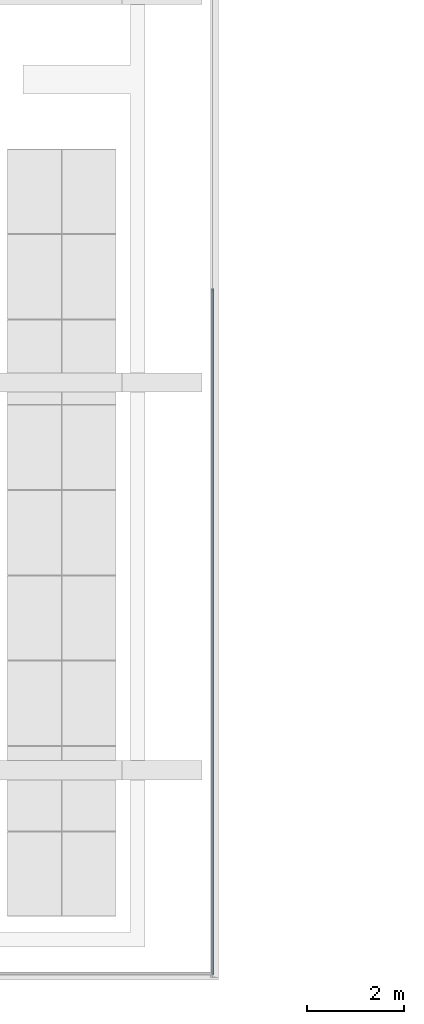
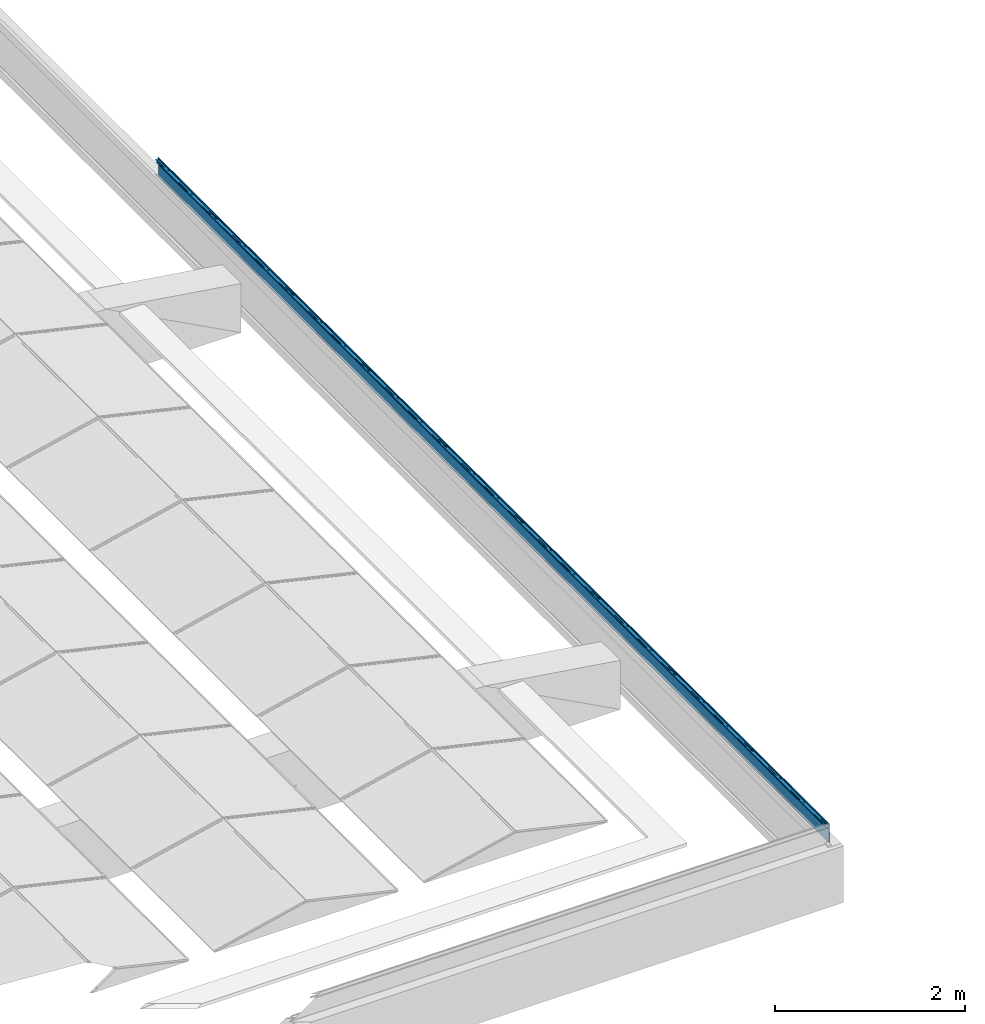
# One storey, part 9 of 25: 2 building element parts, 1 element without a shape of its own.
"""IFC2X3 building model written with IfcOpenShell, lengths in millimetres."""

import ifcopenshell
import ifcopenshell.guid

model = None  # the IFC model being written
_history = None  # IfcOwnerHistory: only IFC2X3 demands one
_inside = {}  # id of a spatial element -> (the spatial element, [elements in it])
_under = {}  # id of a project, library or spatial element -> (it, [spatial elements below it])
_declared = {}  # id of a project -> (the project, [libraries it declares])
_typed = {}  # id of a type object -> (the type object, [elements of that type])
_made_of = {}  # id of a material, layer set ... -> (it, [elements and type objects made of it])


def new_model(schema):
    """Start an empty IFC model of exactly this schema.

    Asked for "IFC4X3", IfcOpenShell would pick the latest addendum, in which some entities
    have other attributes; the version numbers below select the first issue.
    IFC2X3 requires an IfcOwnerHistory on every rooted entity: one is made here for all.
    """
    global model, _history
    if schema == "IFC4X3":
        model = ifcopenshell.file(schema_version=(4, 3, 0, 0))
    else:
        model = ifcopenshell.file(schema=schema)
    _inside.clear()
    _under.clear()
    _declared.clear()
    _typed.clear()
    _made_of.clear()
    _history = None
    if model.schema == "IFC2X3":
        org = make("IfcOrganization", Name="unknown")
        user = make(
            "IfcPersonAndOrganization",
            ThePerson=make("IfcPerson", FamilyName="unknown"),
            TheOrganization=org,
        )
        app = make(
            "IfcApplication",
            ApplicationDeveloper=org,
            Version="unknown",
            ApplicationFullName="unknown",
            ApplicationIdentifier="unknown",
        )
        _history = make(
            "IfcOwnerHistory",
            OwningUser=user,
            OwningApplication=app,
            ChangeAction="ADDED",
            CreationDate=0,
        )
    return model


def make(cls, **values):
    """One entity of the class cls with the attributes given. An attribute that is None is left unset."""
    return model.create_entity(
        cls, **{name: value for name, value in values.items() if value is not None}
    )


def entity(cls, *values):
    """Any entity or typed value of the class cls, its attributes in the order of the schema. None: left unset."""
    e = model.create_entity(cls)
    for i, value in enumerate(values):
        if value is not None:
            e[i] = value
    return e


def rooted(cls, **values):
    """An entity with a GlobalId (a new one), such as an element, a storey or a relation."""
    return make(cls, GlobalId=ifcopenshell.guid.new(), OwnerHistory=_history, **values)


def si_unit(unit_type, name, prefix=None):
    """IfcSIUnit, for example si_unit("LENGTHUNIT", "METRE", prefix="MILLI")."""
    return make("IfcSIUnit", UnitType=unit_type, Prefix=prefix, Name=name)


def converted_unit(unit_type, name, factor, base, dimensions=None, offset=None):
    """IfcConversionBasedUnit, such as the inch: factor (a typed value) times the base unit."""
    return make(
        "IfcConversionBasedUnit"
        if offset is None
        else "IfcConversionBasedUnitWithOffset",
        ConversionOffset=offset,
        Dimensions=None
        if dimensions is None
        else entity("IfcDimensionalExponents", *dimensions),
        UnitType=unit_type,
        Name=name,
        ConversionFactor=make(
            "IfcMeasureWithUnit", ValueComponent=factor, UnitComponent=base
        ),
    )


def derived_unit(unit_type, elements):
    """IfcDerivedUnit: a product of units, each with its exponent."""
    return make(
        "IfcDerivedUnit",
        Elements=[
            make("IfcDerivedUnitElement", Unit=unit, Exponent=power)
            for unit, power in elements
        ],
        UnitType=unit_type,
    )


def money_unit(currency):
    """IfcMonetaryUnit."""
    return make("IfcMonetaryUnit", Currency=currency)


def assignment(units):
    """IfcUnitAssignment: the units of a project."""
    return None if units is None else make("IfcUnitAssignment", Units=units)


def point(xyz):
    """IfcCartesianPoint."""
    return None if xyz is None else make("IfcCartesianPoint", Coordinates=xyz)


def direction(xyz):
    """IfcDirection."""
    return None if xyz is None else make("IfcDirection", DirectionRatios=xyz)


def frame(location, z_axis=None, x_axis=None):
    """IfcAxis2Placement3D, a coordinate frame: its origin and axes. An axis left out is left unset."""
    return make(
        "IfcAxis2Placement3D",
        Location=point(location),
        Axis=direction(z_axis),
        RefDirection=direction(x_axis),
    )


def origin_with_axes():
    """The frame at (0, 0, 0) with the z axis (0, 0, 1) and the x axis (1, 0, 0) written out."""
    return frame((0.0, 0.0, 0.0), z_axis=(0.0, 0.0, 1.0), x_axis=(1.0, 0.0, 0.0))


def place(relative_to, where):
    """IfcLocalPlacement: puts the frame where relative to a parent placement (None: the world)."""
    return make(
        "IfcLocalPlacement", PlacementRelTo=relative_to, RelativePlacement=where
    )


def context(
    kind, dimensions, precision=None, world=None, true_north=None, identifier=None
):
    """IfcGeometricRepresentationContext, for example the 3D "Model" context."""
    return make(
        "IfcGeometricRepresentationContext",
        ContextIdentifier=identifier,
        ContextType=kind,
        CoordinateSpaceDimension=dimensions,
        Precision=precision,
        WorldCoordinateSystem=world,
        TrueNorth=true_north,
    )


def subcontext(parent, identifier, kind, view, scale=None):
    """IfcGeometricRepresentationSubContext, for example "Body" below "Model"."""
    return make(
        "IfcGeometricRepresentationSubContext",
        ContextIdentifier=identifier,
        ContextType=kind,
        ParentContext=parent,
        TargetScale=scale,
        TargetView=view,
    )


def project(units=None, contexts=None):
    """IfcProject with its units and contexts."""
    return rooted(
        "IfcProject",
        Name="project",
        RepresentationContexts=contexts,
        UnitsInContext=assignment(units),
    )


def spatial(cls, under=None, at=None, **own):
    """A site, building, storey or space (cls), placed at a placement, below another one or the project."""
    s = rooted(cls, ObjectPlacement=at, **own)
    if under is not None:
        _under.setdefault(under.id(), (under, []))[1].append(s)
    return s


def faces_of(points, faces, orient=None, outer=None):
    """IfcFace entities. A face is a list of loops; a loop is a list of indices into points, from 0.

    orient and outer hold one flag for each loop. By default every Orientation is true, the
    first loop of a face is its IfcFaceOuterBound and the others are IfcFaceBound.
    """
    made = []
    for i, loops in enumerate(faces):
        bounds = []
        for j, loop in enumerate(loops):
            is_outer = j == 0 if outer is None else outer[i][j]
            bounds.append(
                make(
                    "IfcFaceOuterBound" if is_outer else "IfcFaceBound",
                    Bound=make("IfcPolyLoop", Polygon=[points[k] for k in loop]),
                    Orientation=True if orient is None else orient[i][j],
                )
            )
        made.append(make("IfcFace", Bounds=bounds))
    return made


def faceted_brep(points, faces, orient=None, outer=None, voids=None):
    """IfcFacetedBrep: a solid bounded by flat faces; with voids (closed shells), ...WithVoids."""
    shared = [point(p) for p in points]
    hull = make("IfcClosedShell", CfsFaces=faces_of(shared, faces, orient, outer))
    if voids is None:
        return make("IfcFacetedBrep", Outer=hull)
    return make(
        "IfcFacetedBrepWithVoids",
        Outer=hull,
        Voids=[
            make(cls, CfsFaces=faces_of(shared, fs, o, b)) for cls, fs, o, b in voids
        ],
    )


def shape(context_of_items, identifier, shape_type, items):
    """IfcShapeRepresentation: the items that make up one representation, for example the "Body"."""
    return make(
        "IfcShapeRepresentation",
        ContextOfItems=context_of_items,
        RepresentationIdentifier=identifier,
        RepresentationType=shape_type,
        Items=items,
    )


def material(Name=None, Category=None):
    """IfcMaterial."""
    return make("IfcMaterial", Name=Name, Category=Category)


def made_of(thing, what):
    """Note that an element or type object is made of a material, layer set ...; save() writes the relation."""
    if what is not None:
        _made_of.setdefault(what.id(), (what, []))[1].append(thing)
    return thing


def type_object(cls, material=None, **own):
    """A type object (cls), such as IfcWallType, which elements share."""
    return made_of(rooted(cls, **own), material)


def element(
    cls,
    number,
    at=None,
    inside=None,
    cuts=None,
    type_object=None,
    material=None,
    context=None,
    identifier="Body",
    shape_type=None,
    held_by="IfcProductDefinitionShape",
    body=None,
    shapes=None,
    **own,
):
    """One element of the class cls, such as IfcWall. Its Tag is "e" and its number.

    at: its placement. inside: the storey or other place that contains it. cuts: it is an
    opening in that element (IfcRelVoidsElement). A single representation is given by context,
    identifier, shape_type and body (its items); several are given by shapes. held_by: the class
    of the entity that holds the representations. save() writes the other relations.
    """
    e = rooted(cls, Tag="e%d" % number, ObjectPlacement=at, **own)
    if body is not None:
        shapes = [shape(context, identifier, shape_type, body)]
    if shapes is not None:
        e.Representation = make(held_by, Representations=shapes)
    if inside is not None:
        _inside.setdefault(inside.id(), (inside, []))[1].append(e)
    if cuts is not None:
        rooted(
            "IfcRelVoidsElement", RelatingBuildingElement=cuts, RelatedOpeningElement=e
        )
    if type_object is not None:
        _typed.setdefault(type_object.id(), (type_object, []))[1].append(e)
    return made_of(e, material)


def aggregate(whole, parts):
    """IfcRelAggregates: a whole, such as a stair, and the parts it consists of."""
    return rooted("IfcRelAggregates", RelatingObject=whole, RelatedObjects=parts)


def save(model, path):
    """Write the relations noted so far, then the file.

    IfcRelAggregates (storeys below a building ...), IfcRelContainedInSpatialStructure (elements
    in a storey), IfcRelDefinesByType, IfcRelAssociatesMaterial and IfcRelDeclares: one each for
    every whole, place, type object, material and project.
    """
    for whole, parts in _under.values():
        aggregate(whole, parts)
    for where, things in _inside.values():
        rooted(
            "IfcRelContainedInSpatialStructure",
            RelatedElements=things,
            RelatingStructure=where,
        )
    for kind, things in _typed.values():
        rooted("IfcRelDefinesByType", RelatedObjects=things, RelatingType=kind)
    for what, things in _made_of.values():
        rooted("IfcRelAssociatesMaterial", RelatedObjects=things, RelatingMaterial=what)
    for by, libraries in _declared.values():
        rooted("IfcRelDeclares", RelatingContext=by, RelatedDefinitions=libraries)
    model.write(path)


model = new_model("IFC2X3")

# Units and contexts
model_context = context("Model", 3, precision=0.01, world=origin_with_axes(), true_north=direction((0.0, 1.0)))
body_context = subcontext(model_context, "Body", "Model", "MODEL_VIEW")
ifc_project = project(units=[si_unit("LENGTHUNIT", "METRE", prefix="MILLI"), si_unit("AREAUNIT", "SQUARE_METRE"), si_unit("VOLUMEUNIT", "CUBIC_METRE"), converted_unit("PLANEANGLEUNIT", "DEGREE", entity("IfcPlaneAngleMeasure", 0.0174532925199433), si_unit("PLANEANGLEUNIT", "RADIAN"), dimensions=[0, 0, 0, 0, 0, 0, 0]), money_unit("EUR"), converted_unit("TIMEUNIT", "Year", entity("IfcTimeMeasure", 31557600.0), si_unit("TIMEUNIT", "SECOND"), dimensions=[0, 0, 1, 0, 0, 0, 0]), si_unit("MASSUNIT", "GRAM", prefix="KILO"), si_unit("THERMODYNAMICTEMPERATUREUNIT", "DEGREE_CELSIUS"), si_unit("LUMINOUSINTENSITYUNIT", "LUMEN"), si_unit("ENERGYUNIT", "JOULE", prefix="MEGA"), derived_unit("THERMALCONDUCTANCEUNIT", [(si_unit("POWERUNIT", "WATT"), 1), (si_unit("LENGTHUNIT", "METRE"), -1), (si_unit("THERMODYNAMICTEMPERATUREUNIT", "KELVIN"), -1)]), derived_unit("SPECIFICHEATCAPACITYUNIT", [(si_unit("ENERGYUNIT", "JOULE"), 1), (si_unit("MASSUNIT", "GRAM", prefix="KILO"), -1), (si_unit("THERMODYNAMICTEMPERATUREUNIT", "KELVIN"), -1)]), derived_unit("MASSDENSITYUNIT", [(si_unit("MASSUNIT", "GRAM", prefix="KILO"), 1), (si_unit("VOLUMEUNIT", "CUBIC_METRE"), -1)])], contexts=[model_context])

# Site, building, storey
site_placement = place(None, origin_with_axes())
site = spatial("IfcSite", under=ifc_project, at=site_placement, Name="<site naam>", CompositionType="ELEMENT")
building_placement = place(site_placement, origin_with_axes())
building = spatial("IfcBuilding", under=site, at=building_placement, Name="<Naam gebouw>", CompositionType="ELEMENT")
storey_placement = place(building_placement, frame((0.0, 0.0, 9563.0), z_axis=(0.0, 0.0, 1.0), x_axis=(1.0, 0.0, 0.0)))
storey = spatial("IfcBuildingStorey", under=building, at=storey_placement, Name="03 3e tussenverdieping", CompositionType="ELEMENT", Elevation=9563.0)

# Beam, building element parts
beam_type = type_object("IfcBeamType", Name="Aluminium daktrim 45 x 250", PredefinedType="BEAM")
beam_placement = place(storey_placement, frame((4335.044465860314, -12327.02502410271, -1057.000005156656), z_axis=(0.0, 0.0, 1.0), x_axis=(1.0, 0.0, 0.0)))
beam = element("IfcBeam", 1, at=beam_placement, inside=storey, type_object=beam_type, Name="47_Balk_Aluminium", ObjectType="BEAM")
ifc_material = material(Name="aluminium")
building_element_part_1_placement = place(beam_placement, origin_with_axes())
building_element_part_1 = element("IfcBuildingElementPart", 2, at=building_element_part_1_placement, material=ifc_material, Name="aluminium", context=body_context, shape_type="Brep", body=[
    faceted_brep([(-109.9991945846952, 14222.04448901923, 250.0656451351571), (-109.9991945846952, 14222.04448901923, 293.0656450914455), (-109.9991945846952, 109.9991945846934, 293.0656450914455), (-109.9991945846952, 109.9991945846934, 250.0656451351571), (-110.2920878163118, 14222.04448901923, 293.7727519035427), (-110.2920878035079, 14222.04448901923, 249.3585383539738), (-110.9991945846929, 14222.04448901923, 249.0656451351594), (-111.4991731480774, 14222.04448901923, 249.1996073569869), (-117.6977781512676, 14222.04448901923, 252.7781690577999), (-117.9774779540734, 14222.04448901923, 253.1426342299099), (-117.9175736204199, 14222.04448901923, 253.598132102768), (-117.5531500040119, 14222.04448901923, 253.8778860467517), (-117.0976432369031, 14222.04448901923, 253.8180493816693), (-113.8976320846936, 14222.04448901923, 251.9718951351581), (-113.8976320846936, 14222.04448901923, 252.565645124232), (-113.7511854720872, 14222.04448901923, 252.9191985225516), (-113.3976320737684, 14222.04448901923, 253.0656451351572), (-113.1984133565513, 14222.04448901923, 253.0656451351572), (-112.8448599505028, 14222.04448901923, 252.9191985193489), (-112.6984133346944, 14222.04448901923, 252.5656451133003), (-112.6984133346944, 14222.04448901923, 251.278535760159), (-111.9489165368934, 14222.04448901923, 250.8452329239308), (-111.6116899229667, 14222.04448901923, 250.7856033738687), (-111.3150643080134, 14222.04448901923, 250.9567486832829), (-111.1979101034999, 14222.04448901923, 251.278544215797), (-111.1984133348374, 14222.04448901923, 281.0656535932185), (-111.3448629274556, 14222.04448901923, 281.419201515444), (-111.6984133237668, 14222.04448901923, 281.5656451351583), (-112.1984133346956, 14222.04448901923, 281.5656451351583), (-112.5519667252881, 14222.04448901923, 281.4191985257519), (-112.6984133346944, 14222.04448901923, 281.0656451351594), (-112.6984133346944, 14222.04448901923, 279.5656451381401), (-112.8448599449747, 14222.04448901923, 279.212091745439), (-113.1984133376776, 14222.04448901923, 279.065645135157), (-114.9718508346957, 14222.04448901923, 279.065645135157), (-120.1773366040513, 14222.04448901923, 275.7461395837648), (-120.3116945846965, 14222.04448901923, 275.4250201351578), (-120.5695070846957, 14222.04448901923, 275.3156451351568), (-120.889819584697, 14222.04448901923, 275.448457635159), (-121.5401955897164, 14222.04448901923, 275.2060759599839), (-121.694507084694, 14222.04448901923, 274.897676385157), (-121.9640383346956, 14222.04448901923, 274.8078326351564), (-122.2726320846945, 14222.04448901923, 274.9640826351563), (-128.1981216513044, 14222.04448901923, 274.066030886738), (-154.6486035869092, 14222.04448901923, 274.0656451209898), (-154.8951277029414, 14222.04448901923, 274.1677553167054), (-154.9972414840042, 14222.04448901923, 274.4142779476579), (-154.8947842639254, 14222.04448901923, 274.6611444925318), (-154.6476320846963, 14222.04448901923, 274.7629107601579), (-149.9991945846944, 14222.04448901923, 275.2648638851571), (-149.698413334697, 14222.04448901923, 275.565645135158), (-147.2999758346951, 14222.04448901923, 275.565645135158), (-146.9991945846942, 14222.04448901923, 275.2648638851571), (-143.9991945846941, 14222.04448901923, 275.2648638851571), (-143.6984133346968, 14222.04448901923, 275.565645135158), (-141.2999758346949, 14222.04448901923, 275.565645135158), (-140.9991945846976, 14222.04448901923, 275.2648638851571), (-137.9991945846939, 14222.04448901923, 275.2648638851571), (-137.6984133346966, 14222.04448901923, 275.565645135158), (-135.2999758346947, 14222.04448901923, 275.565645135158), (-134.9991945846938, 14222.04448901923, 275.2648638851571), (-131.9991945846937, 14222.04448901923, 275.2648638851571), (-131.6984133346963, 14222.04448901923, 275.565645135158), (-129.2999758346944, 14222.04448901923, 275.565645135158), (-128.9991945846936, 14222.04448901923, 275.2648638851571), (-128.1984107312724, 14222.04448901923, 275.2648638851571), (-120.015863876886, 14222.04448901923, 277.1388822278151), (-113.4645529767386, 14222.04448901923, 282.3873432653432), (-112.6841977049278, 14222.04448901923, 282.7641787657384), (-112.1970030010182, 14222.04448901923, 282.7648658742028), (-111.490808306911, 14222.04448901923, 283.0582564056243), (-111.1984133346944, 14222.04448901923, 283.7648638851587), (-111.1984133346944, 14222.04448901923, 292.3664263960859), (-111.3448599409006, 14222.04448901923, 292.719979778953), (-111.6984133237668, 14222.04448901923, 292.8664263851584), (-120.7999758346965, 14222.04448901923, 292.8664263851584), (-121.153529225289, 14222.04448901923, 292.7199797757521), (-121.2999758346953, 14222.04448901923, 292.3664263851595), (-121.2999758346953, 14222.04448901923, 290.6652544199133), (-121.4748532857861, 14222.04448901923, 290.2428198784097), (-121.8971453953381, 14222.04448901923, 290.0675987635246), (-122.3197220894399, 14222.04448901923, 290.2421324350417), (-122.4952867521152, 14222.04448901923, 290.6642818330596), (-122.4991919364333, 14222.04448901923, 293.0640177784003), (-122.2068758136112, 14222.04448901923, 293.7721760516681), (-121.4991945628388, 14222.04448901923, 294.0656451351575), (-110.9991946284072, 14222.04448901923, 294.0656451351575), (-110.2920878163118, 110.2920878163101, 293.7727519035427), (-110.9991946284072, 110.9991946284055, 294.0656451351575), (-121.4991945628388, 121.499194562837, 294.0656451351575), (-122.2068758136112, 122.2068758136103, 293.7721760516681), (-122.4991919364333, 122.4991919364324, 293.0640177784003), (-122.4952867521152, 122.4952867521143, 290.6642818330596), (-122.3197220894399, 122.3197220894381, 290.2421324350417), (-121.8971453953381, 121.8971453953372, 290.0675987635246), (-121.4748532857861, 121.4748532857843, 290.2428198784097), (-121.2999758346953, 121.2999758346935, 290.6652544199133), (-121.2999758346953, 121.2999758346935, 292.3664263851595), (-121.153529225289, 121.1535292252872, 292.7199797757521), (-120.7999758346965, 120.7999758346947, 292.8664263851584), (-111.6984133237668, 111.6984133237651, 292.8664263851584), (-111.3448599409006, 111.3448599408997, 292.719979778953), (-111.1984133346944, 111.1984133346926, 292.3664263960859), (-111.1984133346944, 111.1984133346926, 283.7648638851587), (-111.490808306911, 111.490808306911, 283.0582564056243), (-112.1970030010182, 112.1970030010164, 282.7648658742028), (-112.6841977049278, 112.684197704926, 282.7641787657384), (-113.4645529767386, 113.4645529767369, 282.3873432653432), (-120.015863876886, 120.0158638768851, 277.1388822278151), (-128.1984107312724, 128.1984107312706, 275.2648638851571), (-128.9991945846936, 128.9991945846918, 275.2648638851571), (-129.2999758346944, 129.2999758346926, 275.565645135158), (-131.6984133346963, 131.6984133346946, 275.565645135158), (-131.9991945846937, 131.9991945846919, 275.2648638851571), (-134.9991945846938, 134.999194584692, 275.2648638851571), (-135.2999758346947, 135.2999758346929, 275.565645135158), (-137.6984133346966, 137.6984133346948, 275.565645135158), (-137.9991945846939, 137.9991945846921, 275.2648638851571), (-140.9991945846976, 140.9991945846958, 275.2648638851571), (-141.2999758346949, 141.2999758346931, 275.565645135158), (-143.6984133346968, 143.698413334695, 275.565645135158), (-143.9991945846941, 143.9991945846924, 275.2648638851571), (-146.9991945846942, 146.9991945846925, 275.2648638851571), (-147.2999758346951, 147.2999758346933, 275.565645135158), (-149.698413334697, 149.6984133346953, 275.565645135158), (-149.9991945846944, 149.9991945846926, 275.2648638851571), (-154.6476320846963, 154.6476320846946, 274.7629107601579), (-154.8947842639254, 154.8947842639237, 274.6611444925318), (-154.9972414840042, 154.9972414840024, 274.4142779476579), (-154.8951277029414, 154.8951277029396, 274.1677553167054), (-154.6486035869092, 154.6486035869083, 274.0656451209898), (-128.1981216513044, 128.1981216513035, 274.066030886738), (-122.2726320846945, 122.2726320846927, 274.9640826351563), (-121.9640383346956, 121.9640383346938, 274.8078326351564), (-121.694507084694, 121.6945070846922, 274.897676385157), (-121.5401955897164, 121.5401955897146, 275.2060759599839), (-120.889819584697, 120.8898195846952, 275.448457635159), (-120.5695070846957, 120.5695070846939, 275.3156451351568), (-120.3116945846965, 120.3116945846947, 275.4250201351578), (-120.1773366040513, 120.1773366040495, 275.7461395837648), (-114.9718508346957, 114.971850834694, 279.065645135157), (-113.1984133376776, 113.1984133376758, 279.065645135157), (-112.8448599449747, 112.844859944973, 279.212091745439), (-112.6984133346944, 112.6984133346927, 279.5656451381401), (-112.6984133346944, 112.6984133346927, 281.0656451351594), (-112.5519667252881, 112.5519667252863, 281.4191985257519), (-112.1984133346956, 112.1984133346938, 281.5656451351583), (-111.6984133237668, 111.6984133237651, 281.5656451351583), (-111.3448629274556, 111.3448629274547, 281.419201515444), (-111.1984133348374, 111.1984133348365, 281.0656535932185), (-111.1979101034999, 111.197910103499, 251.278544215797), (-111.3150643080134, 111.3150643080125, 250.9567486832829), (-111.6116899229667, 111.6116899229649, 250.7856033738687), (-111.9489165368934, 111.9489165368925, 250.8452329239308), (-112.6984133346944, 112.6984133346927, 251.278535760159), (-112.6984133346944, 112.6984133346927, 252.5656451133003), (-112.8448599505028, 112.844859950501, 252.9191985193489), (-113.1984133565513, 113.1984133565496, 253.0656451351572), (-113.3976320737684, 113.3976320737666, 253.0656451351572), (-113.7511854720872, 113.7511854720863, 252.9191985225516), (-113.8976320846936, 113.8976320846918, 252.565645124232), (-113.8976320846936, 113.8976320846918, 251.9718951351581), (-117.0976432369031, 117.0976432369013, 253.8180493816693), (-117.5531500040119, 117.5531500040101, 253.8778860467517), (-117.9175736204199, 117.917573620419, 253.598132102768), (-117.9774779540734, 117.9774779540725, 253.1426342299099), (-117.6977781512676, 117.6977781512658, 252.7781690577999), (-111.4991731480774, 111.4991731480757, 249.1996073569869), (-110.9991945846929, 110.9991945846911, 249.0656451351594), (-110.2920878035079, 110.2920878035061, 249.3585383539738)], [[[0, 1, 2, 3]], [[4, 1, 0, 5, 6, 7, 8, 9, 10, 11, 12, 13, 14, 15, 16, 17, 18, 19, 20, 21, 22, 23, 24, 25, 26, 27, 28, 29, 30, 31, 32, 33, 34, 35, 36, 37, 38, 39, 40, 41, 42, 43, 44, 45, 46, 47, 48, 49, 50, 51, 52, 53, 54, 55, 56, 57, 58, 59, 60, 61, 62, 63, 64, 65, 66, 67, 68, 69, 70, 71, 72, 73, 74, 75, 76, 77, 78, 79, 80, 81, 82, 83, 84, 85, 86]], [[1, 4, 87, 2]], [[88, 89, 90, 91, 92, 93, 94, 95, 96, 97, 98, 99, 100, 101, 102, 103, 104, 105, 106, 107, 108, 109, 110, 111, 112, 113, 114, 115, 116, 117, 118, 119, 120, 121, 122, 123, 124, 125, 126, 127, 128, 129, 130, 131, 132, 133, 134, 135, 136, 137, 138, 139, 140, 141, 142, 143, 144, 145, 146, 147, 148, 149, 150, 151, 152, 153, 154, 155, 156, 157, 158, 159, 160, 161, 162, 163, 164, 165, 166, 167, 168, 169, 3, 2, 87]], [[5, 0, 3, 169]], [[6, 5, 169, 168]], [[7, 6, 168, 167]], [[8, 7, 167, 166]], [[9, 8, 166, 165]], [[10, 9, 165, 164]], [[11, 10, 164, 163]], [[12, 11, 163, 162]], [[13, 12, 162, 161]], [[14, 13, 161, 160]], [[15, 14, 160, 159]], [[16, 15, 159, 158]], [[17, 16, 158, 157]], [[18, 17, 157, 156]], [[19, 18, 156, 155]], [[20, 19, 155, 154]], [[21, 20, 154, 153]], [[22, 21, 153, 152]], [[23, 22, 152, 151]], [[24, 23, 151, 150]], [[25, 24, 150, 149]], [[26, 25, 149, 148]], [[27, 26, 148, 147]], [[28, 27, 147, 146]], [[29, 28, 146, 145]], [[30, 29, 145, 144]], [[31, 30, 144, 143]], [[32, 31, 143, 142]], [[33, 32, 142, 141]], [[34, 33, 141, 140]], [[35, 34, 140, 139]], [[36, 35, 139, 138]], [[37, 36, 138, 137]], [[38, 37, 137, 136]], [[39, 38, 136, 135]], [[40, 39, 135, 134]], [[41, 40, 134, 133]], [[42, 41, 133, 132]], [[43, 42, 132, 131]], [[44, 43, 131, 130]], [[45, 44, 130, 129]], [[46, 45, 129, 128]], [[47, 46, 128, 127]], [[48, 47, 127, 126]], [[49, 48, 126, 125]], [[50, 49, 125, 124]], [[51, 50, 124, 123]], [[52, 51, 123, 122]], [[53, 52, 122, 121]], [[54, 53, 121, 120]], [[55, 54, 120, 119]], [[56, 55, 119, 118]], [[57, 56, 118, 117]], [[58, 57, 117, 116]], [[59, 58, 116, 115]], [[60, 59, 115, 114]], [[61, 60, 114, 113]], [[62, 61, 113, 112]], [[63, 62, 112, 111]], [[64, 63, 111, 110]], [[65, 64, 110, 109]], [[66, 65, 109, 108]], [[67, 66, 108, 107]], [[68, 67, 107, 106]], [[69, 68, 106, 105]], [[70, 69, 105, 104]], [[71, 70, 104, 103]], [[72, 71, 103, 102]], [[73, 72, 102, 101]], [[74, 73, 101, 100]], [[75, 74, 100, 99]], [[76, 75, 99, 98]], [[77, 76, 98, 97]], [[78, 77, 97, 96]], [[79, 78, 96, 95]], [[80, 79, 95, 94]], [[81, 80, 94, 93]], [[82, 81, 93, 92]], [[83, 82, 92, 91]], [[84, 83, 91, 90]], [[85, 84, 90, 89]], [[86, 85, 89, 88]], [[4, 86, 88, 87]]]),
    faceted_brep([(-110.2920878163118, 14223.0444943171, 293.7727519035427), (-109.9991945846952, 14223.0444943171, 293.0656450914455), (-109.9991945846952, 14257.0444890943, 293.0656450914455), (-110.2920878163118, 14257.0444890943, 293.7727519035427), (-109.9991945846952, 14223.0444943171, 250.0656451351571), (-110.9991946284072, 14223.0444943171, 294.0656451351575), (-121.4991945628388, 14223.0444943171, 294.0656451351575), (-122.2068758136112, 14223.0444943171, 293.7721760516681), (-122.4991919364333, 14223.0444943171, 293.0640177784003), (-122.4952867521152, 14223.0444943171, 290.6642818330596), (-122.3197220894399, 14223.0444943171, 290.2421324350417), (-121.8971453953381, 14223.0444943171, 290.0675987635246), (-121.4748532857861, 14223.0444943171, 290.2428198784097), (-121.2999758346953, 14223.0444943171, 290.6652544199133), (-121.2999758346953, 14223.0444943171, 292.3664263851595), (-121.153529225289, 14223.0444943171, 292.7199797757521), (-120.7999758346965, 14223.0444943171, 292.8664263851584), (-111.6984133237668, 14223.0444943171, 292.8664263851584), (-111.3448599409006, 14223.0444943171, 292.719979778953), (-111.1984133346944, 14223.0444943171, 292.3664263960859), (-111.1984133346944, 14223.0444943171, 283.7648638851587), (-111.490808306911, 14223.0444943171, 283.0582564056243), (-112.1970030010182, 14223.0444943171, 282.7648658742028), (-112.6841977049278, 14223.0444943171, 282.7641787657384), (-113.4645529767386, 14223.0444943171, 282.3873432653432), (-120.015863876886, 14223.0444943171, 277.1388822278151), (-128.1984107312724, 14223.0444943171, 275.2648638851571), (-128.9991945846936, 14223.0444943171, 275.2648638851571), (-129.2999758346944, 14223.0444943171, 275.565645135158), (-131.6984133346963, 14223.0444943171, 275.565645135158), (-131.9991945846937, 14223.0444943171, 275.2648638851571), (-134.9991945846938, 14223.0444943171, 275.2648638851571), (-135.2999758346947, 14223.0444943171, 275.565645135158), (-137.6984133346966, 14223.0444943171, 275.565645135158), (-137.9991945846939, 14223.0444943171, 275.2648638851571), (-140.9991945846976, 14223.0444943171, 275.2648638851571), (-141.2999758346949, 14223.0444943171, 275.565645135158), (-143.6984133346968, 14223.0444943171, 275.565645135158), (-143.9991945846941, 14223.0444943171, 275.2648638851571), (-146.9991945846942, 14223.0444943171, 275.2648638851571), (-147.2999758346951, 14223.0444943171, 275.565645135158), (-149.698413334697, 14223.0444943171, 275.565645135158), (-149.9991945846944, 14223.0444943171, 275.2648638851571), (-154.6476320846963, 14223.0444943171, 274.7629107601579), (-154.8947842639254, 14223.0444943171, 274.6611444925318), (-154.9972414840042, 14223.0444943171, 274.4142779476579), (-154.8951277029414, 14223.0444943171, 274.1677553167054), (-154.6486035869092, 14223.0444943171, 274.0656451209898), (-128.1981216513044, 14223.0444943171, 274.066030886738), (-122.2726320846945, 14223.0444943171, 274.9640826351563), (-121.9640383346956, 14223.0444943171, 274.8078326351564), (-121.694507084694, 14223.0444943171, 274.897676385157), (-121.5401955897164, 14223.0444943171, 275.2060759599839), (-120.889819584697, 14223.0444943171, 275.448457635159), (-120.5695070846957, 14223.0444943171, 275.3156451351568), (-120.3116945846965, 14223.0444943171, 275.4250201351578), (-120.1773366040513, 14223.0444943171, 275.7461395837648), (-114.9718508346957, 14223.0444943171, 279.065645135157), (-113.1984133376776, 14223.0444943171, 279.065645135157), (-112.8448599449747, 14223.0444943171, 279.212091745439), (-112.6984133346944, 14223.0444943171, 279.5656451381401), (-112.6984133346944, 14223.0444943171, 281.0656451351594), (-112.5519667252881, 14223.0444943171, 281.4191985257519), (-112.1984133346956, 14223.0444943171, 281.5656451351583), (-111.6984133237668, 14223.0444943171, 281.5656451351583), (-111.3448629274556, 14223.0444943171, 281.419201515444), (-111.1984133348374, 14223.0444943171, 281.0656535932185), (-111.1979101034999, 14223.0444943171, 251.278544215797), (-111.3150643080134, 14223.0444943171, 250.9567486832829), (-111.6116899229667, 14223.0444943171, 250.7856033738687), (-111.9489165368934, 14223.0444943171, 250.8452329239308), (-112.6984133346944, 14223.0444943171, 251.278535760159), (-112.6984133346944, 14223.0444943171, 252.5656451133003), (-112.8448599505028, 14223.0444943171, 252.9191985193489), (-113.1984133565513, 14223.0444943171, 253.0656451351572), (-113.3976320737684, 14223.0444943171, 253.0656451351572), (-113.7511854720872, 14223.0444943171, 252.9191985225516), (-113.8976320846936, 14223.0444943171, 252.565645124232), (-113.8976320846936, 14223.0444943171, 251.9718951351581), (-117.0976432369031, 14223.0444943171, 253.8180493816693), (-117.5531500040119, 14223.0444943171, 253.8778860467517), (-117.9175736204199, 14223.0444943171, 253.598132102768), (-117.9774779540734, 14223.0444943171, 253.1426342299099), (-117.6977781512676, 14223.0444943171, 252.7781690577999), (-111.4991731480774, 14223.0444943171, 249.1996073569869), (-110.9991945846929, 14223.0444943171, 249.0656451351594), (-110.2920878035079, 14223.0444943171, 249.3585383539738), (-109.9991945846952, 14257.0444890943, 250.0656451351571), (-122.2068758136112, 14257.0444890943, 293.7721760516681), (-121.4991945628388, 14257.0444890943, 294.0656451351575), (-110.9991946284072, 14257.0444890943, 294.0656451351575), (-110.2920878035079, 14257.0444890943, 249.3585383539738), (-110.9991945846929, 14257.0444890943, 249.0656451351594), (-111.4991731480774, 14257.0444890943, 249.1996073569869), (-117.6977781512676, 14257.0444890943, 252.7781690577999), (-117.9774779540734, 14257.0444890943, 253.1426342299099), (-117.9175736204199, 14257.0444890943, 253.598132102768), (-117.5531500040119, 14257.0444890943, 253.8778860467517), (-117.0976432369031, 14257.0444890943, 253.8180493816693), (-113.8976320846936, 14257.0444890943, 251.9718951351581), (-113.8976320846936, 14257.0444890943, 252.565645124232), (-113.7511854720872, 14257.0444890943, 252.9191985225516), (-113.3976320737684, 14257.0444890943, 253.0656451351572), (-113.1984133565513, 14257.0444890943, 253.0656451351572), (-112.8448599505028, 14257.0444890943, 252.9191985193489), (-112.6984133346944, 14257.0444890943, 252.5656451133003), (-112.6984133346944, 14257.0444890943, 251.278535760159), (-111.9489165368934, 14257.0444890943, 250.8452329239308), (-111.6116899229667, 14257.0444890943, 250.7856033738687), (-111.3150643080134, 14257.0444890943, 250.9567486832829), (-111.1979101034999, 14257.0444890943, 251.278544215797), (-111.1984133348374, 14257.0444890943, 281.0656535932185), (-111.3448629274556, 14257.0444890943, 281.419201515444), (-111.6984133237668, 14257.0444890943, 281.5656451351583), (-112.1984133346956, 14257.0444890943, 281.5656451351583), (-112.5519667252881, 14257.0444890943, 281.4191985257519), (-112.6984133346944, 14257.0444890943, 281.0656451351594), (-112.6984133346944, 14257.0444890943, 279.5656451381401), (-112.8448599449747, 14257.0444890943, 279.212091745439), (-113.1984133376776, 14257.0444890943, 279.065645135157), (-114.9718508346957, 14257.0444890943, 279.065645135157), (-120.1773366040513, 14257.0444890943, 275.7461395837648), (-120.3116945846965, 14257.0444890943, 275.4250201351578), (-120.5695070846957, 14257.0444890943, 275.3156451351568), (-120.889819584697, 14257.0444890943, 275.448457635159), (-121.5401955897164, 14257.0444890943, 275.2060759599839), (-121.694507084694, 14257.0444890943, 274.897676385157), (-121.9640383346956, 14257.0444890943, 274.8078326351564), (-122.2726320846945, 14257.0444890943, 274.9640826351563), (-128.1981216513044, 14257.0444890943, 274.066030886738), (-154.6486035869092, 14257.0444890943, 274.0656451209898), (-154.8951277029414, 14257.0444890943, 274.1677553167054), (-154.9972414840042, 14257.0444890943, 274.4142779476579), (-154.8947842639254, 14257.0444890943, 274.6611444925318), (-154.6476320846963, 14257.0444890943, 274.7629107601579), (-149.9991945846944, 14257.0444890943, 275.2648638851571), (-149.698413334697, 14257.0444890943, 275.565645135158), (-147.2999758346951, 14257.0444890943, 275.565645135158), (-146.9991945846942, 14257.0444890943, 275.2648638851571), (-143.9991945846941, 14257.0444890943, 275.2648638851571), (-143.6984133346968, 14257.0444890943, 275.565645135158), (-141.2999758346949, 14257.0444890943, 275.565645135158), (-140.9991945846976, 14257.0444890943, 275.2648638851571), (-137.9991945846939, 14257.0444890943, 275.2648638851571), (-137.6984133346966, 14257.0444890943, 275.565645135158), (-135.2999758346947, 14257.0444890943, 275.565645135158), (-134.9991945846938, 14257.0444890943, 275.2648638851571), (-131.9991945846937, 14257.0444890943, 275.2648638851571), (-131.6984133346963, 14257.0444890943, 275.565645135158), (-129.2999758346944, 14257.0444890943, 275.565645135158), (-128.9991945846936, 14257.0444890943, 275.2648638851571), (-128.1984107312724, 14257.0444890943, 275.2648638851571), (-120.015863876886, 14257.0444890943, 277.1388822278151), (-113.4645529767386, 14257.0444890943, 282.3873432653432), (-112.6841977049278, 14257.0444890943, 282.7641787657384), (-112.1970030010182, 14257.0444890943, 282.7648658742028), (-111.490808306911, 14257.0444890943, 283.0582564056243), (-111.1984133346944, 14257.0444890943, 283.7648638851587), (-111.1984133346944, 14257.0444890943, 292.3664263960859), (-111.3448599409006, 14257.0444890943, 292.719979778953), (-111.6984133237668, 14257.0444890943, 292.8664263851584), (-120.7999758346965, 14257.0444890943, 292.8664263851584), (-121.153529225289, 14257.0444890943, 292.7199797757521), (-121.2999758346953, 14257.0444890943, 292.3664263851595), (-121.2999758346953, 14257.0444890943, 290.6652544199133), (-121.4748532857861, 14257.0444890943, 290.2428198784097), (-121.8971453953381, 14257.0444890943, 290.0675987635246), (-122.3197220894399, 14257.0444890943, 290.2421324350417), (-122.4952867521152, 14257.0444890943, 290.6642818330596), (-122.4991919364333, 14257.0444890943, 293.0640177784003)], [[[0, 1, 2, 3]], [[4, 1, 0, 5, 6, 7, 8, 9, 10, 11, 12, 13, 14, 15, 16, 17, 18, 19, 20, 21, 22, 23, 24, 25, 26, 27, 28, 29, 30, 31, 32, 33, 34, 35, 36, 37, 38, 39, 40, 41, 42, 43, 44, 45, 46, 47, 48, 49, 50, 51, 52, 53, 54, 55, 56, 57, 58, 59, 60, 61, 62, 63, 64, 65, 66, 67, 68, 69, 70, 71, 72, 73, 74, 75, 76, 77, 78, 79, 80, 81, 82, 83, 84, 85, 86]], [[1, 4, 87, 2]], [[88, 89, 90, 3, 2, 87, 91, 92, 93, 94, 95, 96, 97, 98, 99, 100, 101, 102, 103, 104, 105, 106, 107, 108, 109, 110, 111, 112, 113, 114, 115, 116, 117, 118, 119, 120, 121, 122, 123, 124, 125, 126, 127, 128, 129, 130, 131, 132, 133, 134, 135, 136, 137, 138, 139, 140, 141, 142, 143, 144, 145, 146, 147, 148, 149, 150, 151, 152, 153, 154, 155, 156, 157, 158, 159, 160, 161, 162, 163, 164, 165, 166, 167, 168, 169]], [[5, 0, 3, 90]], [[6, 5, 90, 89]], [[7, 6, 89, 88]], [[8, 7, 88, 169]], [[9, 8, 169, 168]], [[10, 9, 168, 167]], [[11, 10, 167, 166]], [[12, 11, 166, 165]], [[13, 12, 165, 164]], [[14, 13, 164, 163]], [[15, 14, 163, 162]], [[16, 15, 162, 161]], [[17, 16, 161, 160]], [[18, 17, 160, 159]], [[19, 18, 159, 158]], [[20, 19, 158, 157]], [[21, 20, 157, 156]], [[22, 21, 156, 155]], [[23, 22, 155, 154]], [[24, 23, 154, 153]], [[25, 24, 153, 152]], [[26, 25, 152, 151]], [[27, 26, 151, 150]], [[28, 27, 150, 149]], [[29, 28, 149, 148]], [[30, 29, 148, 147]], [[31, 30, 147, 146]], [[32, 31, 146, 145]], [[33, 32, 145, 144]], [[34, 33, 144, 143]], [[35, 34, 143, 142]], [[36, 35, 142, 141]], [[37, 36, 141, 140]], [[38, 37, 140, 139]], [[39, 38, 139, 138]], [[40, 39, 138, 137]], [[41, 40, 137, 136]], [[42, 41, 136, 135]], [[43, 42, 135, 134]], [[44, 43, 134, 133]], [[45, 44, 133, 132]], [[46, 45, 132, 131]], [[47, 46, 131, 130]], [[48, 47, 130, 129]], [[49, 48, 129, 128]], [[50, 49, 128, 127]], [[51, 50, 127, 126]], [[52, 51, 126, 125]], [[53, 52, 125, 124]], [[54, 53, 124, 123]], [[55, 54, 123, 122]], [[56, 55, 122, 121]], [[57, 56, 121, 120]], [[58, 57, 120, 119]], [[59, 58, 119, 118]], [[60, 59, 118, 117]], [[61, 60, 117, 116]], [[62, 61, 116, 115]], [[63, 62, 115, 114]], [[64, 63, 114, 113]], [[65, 64, 113, 112]], [[66, 65, 112, 111]], [[67, 66, 111, 110]], [[68, 67, 110, 109]], [[69, 68, 109, 108]], [[70, 69, 108, 107]], [[71, 70, 107, 106]], [[72, 71, 106, 105]], [[73, 72, 105, 104]], [[74, 73, 104, 103]], [[75, 74, 103, 102]], [[76, 75, 102, 101]], [[77, 76, 101, 100]], [[78, 77, 100, 99]], [[79, 78, 99, 98]], [[80, 79, 98, 97]], [[81, 80, 97, 96]], [[82, 81, 96, 95]], [[83, 82, 95, 94]], [[84, 83, 94, 93]], [[85, 84, 93, 92]], [[86, 85, 92, 91]], [[4, 86, 91, 87]]]),
])
building_element_part_2_placement = place(beam_placement, origin_with_axes())
building_element_part_2 = element("IfcBuildingElementPart", 3, at=building_element_part_2_placement, material=ifc_material, Name="aluminium", context=body_context, shape_type="Brep", body=[
    faceted_brep([(-110.0058874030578, 14222.04448901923, 44.56563661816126), (-110.0058874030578, 14222.04448901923, 239.0654661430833), (-110.0058874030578, 110.0058874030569, 239.0654661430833), (-110.0058874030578, 110.0058874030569, 44.56563661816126), (-141.8058874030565, 14222.04448901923, 243.1686919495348), (-115.2058874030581, 14222.04448901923, 44.56563661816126), (-115.2058874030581, 14222.04448901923, 61.56563661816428), (-114.0058874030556, 14222.04448901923, 61.56563661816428), (-114.0058874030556, 14222.04448901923, 45.7656366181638), (-111.1979101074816, 14222.04448901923, 45.7656366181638), (-111.1979101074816, 14222.04448901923, 237.7678423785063), (-143.0058874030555, 14222.04448901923, 241.8720983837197), (-143.0058874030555, 14222.04448901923, 253.0654661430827), (-141.8058874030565, 14222.04448901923, 253.0654661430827), (-141.8058874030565, 141.8058874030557, 243.1686919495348), (-143.0058874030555, 143.0058874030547, 253.0654661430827), (-143.0058874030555, 143.0058874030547, 241.8720983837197), (-111.1979101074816, 111.1979101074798, 237.7678423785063), (-111.1979101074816, 111.1979101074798, 45.7656366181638), (-114.0058874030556, 114.0058874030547, 45.7656366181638), (-114.0058874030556, 114.0058874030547, 61.56563661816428), (-115.2058874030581, 115.2058874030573, 61.56563661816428), (-115.2058874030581, 115.2058874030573, 44.56563661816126), (-141.8058874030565, 141.8058874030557, 253.0654661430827)], [[[0, 1, 2, 3]], [[4, 1, 0, 5, 6, 7, 8, 9, 10, 11, 12, 13]], [[1, 4, 14, 2]], [[15, 16, 17, 18, 19, 20, 21, 22, 3, 2, 14, 23]], [[5, 0, 3, 22]], [[6, 5, 22, 21]], [[7, 6, 21, 20]], [[8, 7, 20, 19]], [[9, 8, 19, 18]], [[10, 9, 18, 17]], [[11, 10, 17, 16]], [[12, 11, 16, 15]], [[13, 12, 15, 23]], [[4, 13, 23, 14]]]),
    faceted_brep([(-141.8058874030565, 14223.0444943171, 243.1686919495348), (-110.0058874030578, 14223.0444943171, 239.0654661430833), (-110.0058874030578, 14257.0444890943, 239.0654661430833), (-141.8058874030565, 14257.0444890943, 243.1686919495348), (-110.0058874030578, 14223.0444943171, 44.56563661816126), (-141.8058874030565, 14223.0444943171, 253.0654661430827), (-143.0058874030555, 14223.0444943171, 253.0654661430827), (-143.0058874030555, 14223.0444943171, 241.8720983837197), (-111.1979101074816, 14223.0444943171, 237.7678423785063), (-111.1979101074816, 14223.0444943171, 45.7656366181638), (-114.0058874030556, 14223.0444943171, 45.7656366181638), (-114.0058874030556, 14223.0444943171, 61.56563661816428), (-115.2058874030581, 14223.0444943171, 61.56563661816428), (-115.2058874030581, 14223.0444943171, 44.56563661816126), (-110.0058874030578, 14257.0444890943, 44.56563661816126), (-111.1979101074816, 14257.0444890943, 237.7678423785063), (-143.0058874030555, 14257.0444890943, 241.8720983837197), (-143.0058874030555, 14257.0444890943, 253.0654661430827), (-141.8058874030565, 14257.0444890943, 253.0654661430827), (-115.2058874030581, 14257.0444890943, 44.56563661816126), (-115.2058874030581, 14257.0444890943, 61.56563661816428), (-114.0058874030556, 14257.0444890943, 61.56563661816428), (-114.0058874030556, 14257.0444890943, 45.7656366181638), (-111.1979101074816, 14257.0444890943, 45.7656366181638)], [[[0, 1, 2, 3]], [[4, 1, 0, 5, 6, 7, 8, 9, 10, 11, 12, 13]], [[1, 4, 14, 2]], [[15, 16, 17, 18, 3, 2, 14, 19, 20, 21, 22, 23]], [[5, 0, 3, 18]], [[6, 5, 18, 17]], [[7, 6, 17, 16]], [[8, 7, 16, 15]], [[9, 8, 15, 23]], [[10, 9, 23, 22]], [[11, 10, 22, 21]], [[12, 11, 21, 20]], [[13, 12, 20, 19]], [[4, 13, 19, 14]]]),
])
aggregate(beam, [building_element_part_1, building_element_part_2])

save(model, "model.ifc")
